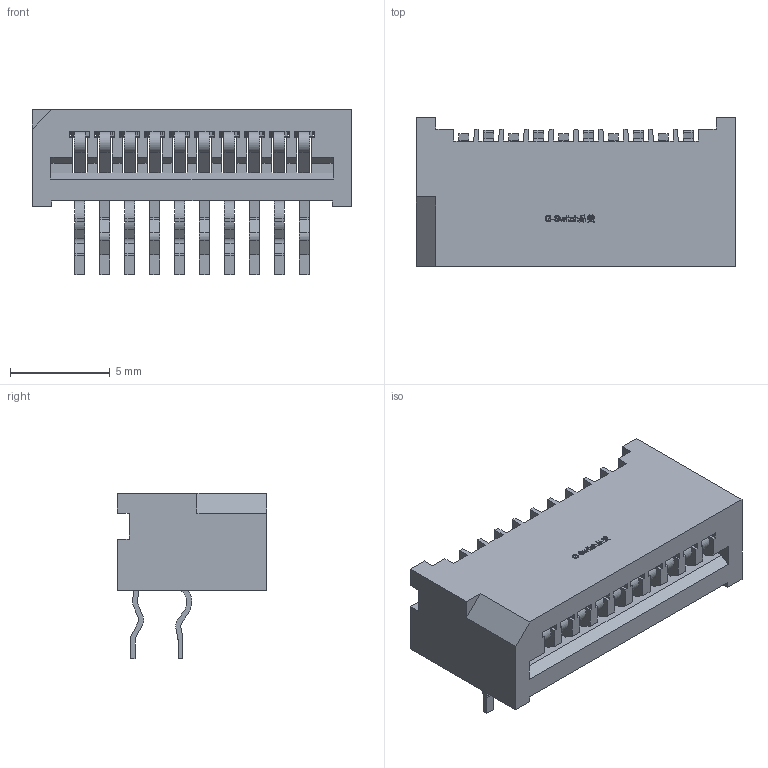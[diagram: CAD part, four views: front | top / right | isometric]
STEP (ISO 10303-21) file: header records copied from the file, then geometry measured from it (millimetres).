
FILE_DESCRIPTION (( 'STEP AP203' ), '1' );
FILE_NAME ('GT-F1252DR49-10SBT01(2).STEP', '2024-01-15T09:44:03', ( 'Microsoft' ), ( 'Microsoft' ), 'SwSTEP 2.0', 'SolidWorks 2023', '' );
FILE_SCHEMA (( 'CONFIG_CONTROL_DESIGN' ));
Length unit declared in the file: millimetre
Products named in the file (5): 125A10001.stp; GT-F1252DR49-10SBT01(2).stp; 125A20002.stp; GT-F1252DR49-10SBT01(2); 125A0001.stp
Assembly tree (12 placements, depth 3):
  GT-F1252DR49-10SBT01(2)
    GT-F1252DR49-10SBT01(2).stp
      125A0001.stp
      125A10001.stp  x5
      125A20002.stp  x5
Bounding box: 16.05 x 7.5 x 8.3 mm (x, y, z)
Volume: 378.6 mm3; surface area: 1184 mm2
Topology: 11 solids, 11 shells, 1071 faces, 3104 edges, 2056 vertices
Faces by surface type: plane 747, cylinder 250, bspline 74
Entity records: 24361 total; most frequent: CARTESIAN_POINT 7785, ORIENTED_EDGE 3568, DIRECTION 2842, EDGE_CURVE 1784, LINE 1528, VECTOR 1528, VERTEX_POINT 1176, AXIS2_PLACEMENT_3D 657
